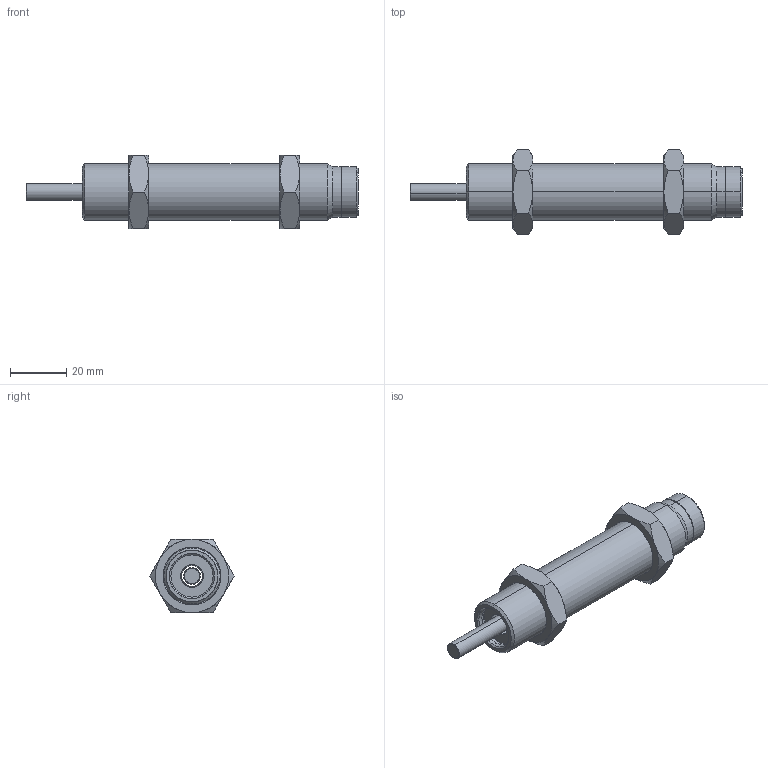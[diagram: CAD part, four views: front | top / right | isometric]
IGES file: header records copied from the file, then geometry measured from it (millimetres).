
Start section: SolidWorks IGES file using analytic representation for surfaces
Global section: file name: D:\IGS跡宒\AC2020-CN.IGS,1; native system: 5HSolidWorks 2013; preprocessor: SolidWorks 2013; author: Administrator; date: 160412.105833; units: inch
Bounding box: 118 x 30.02 x 26 mm (x, y, z)
Surface area: 10677 mm2 (no closed solid volume)
Topology: 0 solids, 0 shells, 87 faces, 1256 edges, 1256 vertices
Faces by surface type: revolution 66, bspline 21
